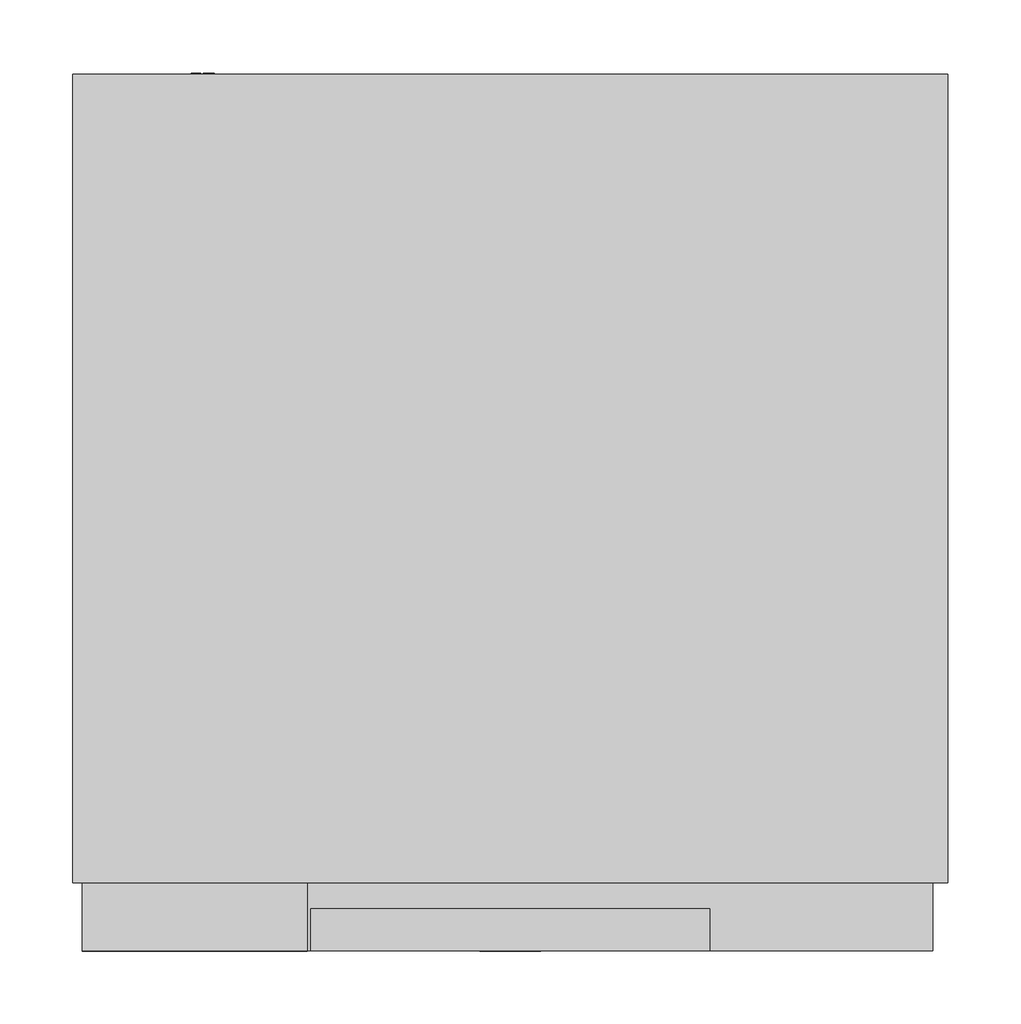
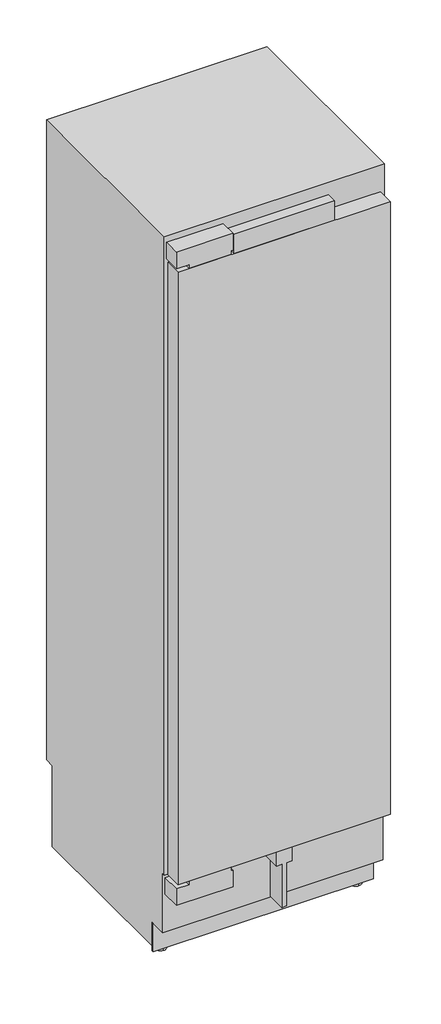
# Not in any storey: 1 proxy.
"""IFC4 building model written with IfcOpenShell, lengths in millimetres."""

from ifc_helpers import new_model, si_unit, origin, place, context, project, spatial, transform, mapped, element, save
from components import specialty_equipment_2461eca1

model = new_model("IFC4")

# Units and contexts
model_context = context("Model", 3, world=origin())
ifc_project = project(units=[si_unit("LENGTHUNIT", "METRE", prefix="MILLI")], contexts=[model_context])

# Site, building
site = spatial("IfcSite", under=ifc_project)
building = spatial("IfcBuilding", under=site)

# Proxy
placement = place(None, origin())
specialty_equipment_shape = specialty_equipment_2461eca1(model_context)
element("IfcBuildingElementProxy", 1, Name="11502560_USA_K2612Vi : 36261201_USA_11502560_K2612Vi", ObjectType="11502560_USA_K2612Vi : 36261201_USA_11502560_K2612Vi", at=placement, inside=building, context=model_context, shape_type="MappedRepresentation", body=[
    mapped(specialty_equipment_shape, transform((0.0, 0.0, 0.0), x_axis=(1.0, 0.0, 0.0), y_axis=(0.0, 1.0, 0.0), z_axis=(0.0, 0.0, 1.0))),
])

save(model, "model.ifc")
